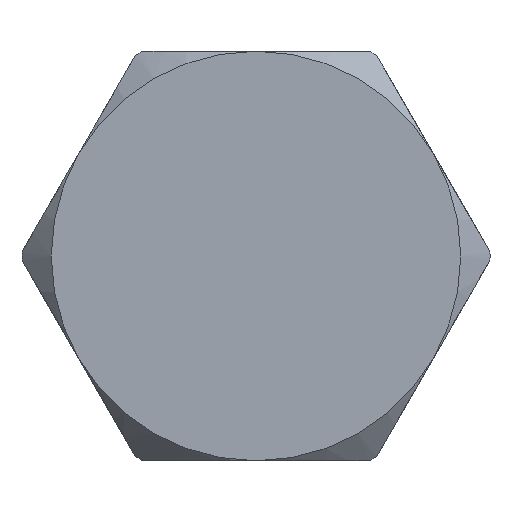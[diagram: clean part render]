
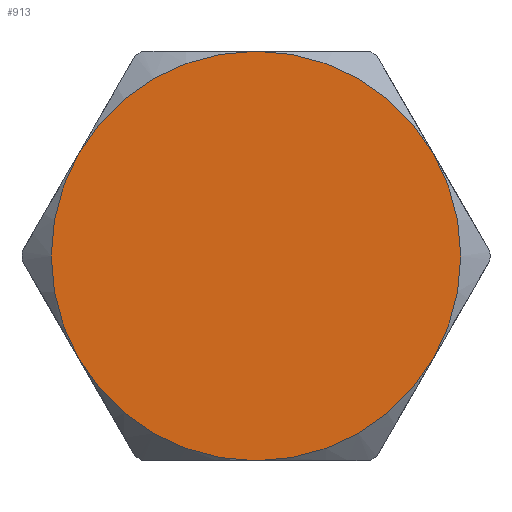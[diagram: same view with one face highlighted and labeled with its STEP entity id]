
A CAD part, front view. The second image highlights one B-rep face of the part: STEP entity #913.
In plain terms, the highlighted planar face has unit normal (0, -1, 0).
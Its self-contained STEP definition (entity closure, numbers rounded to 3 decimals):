
#18 = CIRCLE ( 'NONE', #783, 3.5 ) ;
#21 = ORIENTED_EDGE ( 'NONE', *, *, #597, .F. ) ;
#33 = DIRECTION ( 'NONE',  ( 0., 0., 1. ) ) ;
#45 = CIRCLE ( 'NONE', #340, 3.5 ) ;
#46 = DIRECTION ( 'NONE',  ( 0., 1., 0. ) ) ;
#109 = VERTEX_POINT ( 'NONE', #406 ) ;
#115 = DIRECTION ( 'NONE',  ( 0., 0., 1. ) ) ;
#119 = DIRECTION ( 'NONE',  ( 0., 1., 0. ) ) ;
#124 = CARTESIAN_POINT ( 'NONE',  ( -3.031, -150., 1.75 ) ) ;
#125 = ORIENTED_EDGE ( 'NONE', *, *, #828, .F. ) ;
#128 = DIRECTION ( 'NONE',  ( 0., 0., 1. ) ) ;
#129 = DIRECTION ( 'NONE',  ( 0., 1., 0. ) ) ;
#141 = DIRECTION ( 'NONE',  ( 0., 1., 0. ) ) ;
#160 = CARTESIAN_POINT ( 'NONE',  ( -3.031, -150., -1.75 ) ) ;
#174 = CARTESIAN_POINT ( 'NONE',  ( 0., -150., 0. ) ) ;
#198 = EDGE_CURVE ( 'NONE', #391, #712, #45, .T. ) ;
#204 = DIRECTION ( 'NONE',  ( 0., 0., 1. ) ) ;
#217 = ORIENTED_EDGE ( 'NONE', *, *, #705, .F. ) ;
#259 = ORIENTED_EDGE ( 'NONE', *, *, #719, .F. ) ;
#275 = CARTESIAN_POINT ( 'NONE',  ( 0., -150., 0. ) ) ;
#299 = CARTESIAN_POINT ( 'NONE',  ( 0., -150., 0. ) ) ;
#315 = EDGE_LOOP ( 'NONE', ( #217, #21, #397, #259, #559, #125 ) ) ;
#322 = AXIS2_PLACEMENT_3D ( 'NONE', #679, #46, #759 ) ;
#324 = CIRCLE ( 'NONE', #322, 3.5 ) ;
#340 = AXIS2_PLACEMENT_3D ( 'NONE', #776, #129, #204 ) ;
#347 = CARTESIAN_POINT ( 'NONE',  ( 0., -150., 3.5 ) ) ;
#364 = CIRCLE ( 'NONE', #735, 3.5 ) ;
#381 = DIRECTION ( 'NONE',  ( 0., 0., 1. ) ) ;
#391 = VERTEX_POINT ( 'NONE', #160 ) ;
#397 = ORIENTED_EDGE ( 'NONE', *, *, #198, .F. ) ;
#406 = CARTESIAN_POINT ( 'NONE',  ( 0., -150., -3.5 ) ) ;
#437 = CARTESIAN_POINT ( 'NONE',  ( 0., -150., 0. ) ) ;
#467 = DIRECTION ( 'NONE',  ( 0., 1., 0. ) ) ;
#502 = VERTEX_POINT ( 'NONE', #723 ) ;
#508 = AXIS2_PLACEMENT_3D ( 'NONE', #299, #141, #860 ) ;
#526 = EDGE_CURVE ( 'NONE', #630, #109, #364, .T. ) ;
#550 = CARTESIAN_POINT ( 'NONE',  ( 0., -150., 0. ) ) ;
#559 = ORIENTED_EDGE ( 'NONE', *, *, #526, .F. ) ;
#597 = EDGE_CURVE ( 'NONE', #712, #876, #626, .T. ) ;
#626 = CIRCLE ( 'NONE', #887, 3.5 ) ;
#630 = VERTEX_POINT ( 'NONE', #748 ) ;
#679 = CARTESIAN_POINT ( 'NONE',  ( 0., -150., 0. ) ) ;
#687 = AXIS2_PLACEMENT_3D ( 'NONE', #275, #467, #128 ) ;
#705 = EDGE_CURVE ( 'NONE', #876, #502, #18, .T. ) ;
#712 = VERTEX_POINT ( 'NONE', #124 ) ;
#719 = EDGE_CURVE ( 'NONE', #109, #391, #324, .T. ) ;
#723 = CARTESIAN_POINT ( 'NONE',  ( 3.031, -150., 1.75 ) ) ;
#735 = AXIS2_PLACEMENT_3D ( 'NONE', #437, #870, #33 ) ;
#736 = DIRECTION ( 'NONE',  ( 0., 1., 0. ) ) ;
#748 = CARTESIAN_POINT ( 'NONE',  ( 3.031, -150., -1.75 ) ) ;
#758 = CIRCLE ( 'NONE', #687, 3.5 ) ;
#759 = DIRECTION ( 'NONE',  ( 0., 0., 1. ) ) ;
#776 = CARTESIAN_POINT ( 'NONE',  ( 0., -150., 0. ) ) ;
#783 = AXIS2_PLACEMENT_3D ( 'NONE', #550, #119, #115 ) ;
#784 = FACE_OUTER_BOUND ( 'NONE', #315, .T. ) ;
#828 = EDGE_CURVE ( 'NONE', #502, #630, #758, .T. ) ;
#849 = PLANE ( 'NONE',  #508 ) ;
#860 = DIRECTION ( 'NONE',  ( 0., 0., 1. ) ) ;
#870 = DIRECTION ( 'NONE',  ( 0., 1., 0. ) ) ;
#876 = VERTEX_POINT ( 'NONE', #347 ) ;
#887 = AXIS2_PLACEMENT_3D ( 'NONE', #174, #736, #381 ) ;
#913 = ADVANCED_FACE ( 'NONE', ( #784 ), #849, .F. ) ;
